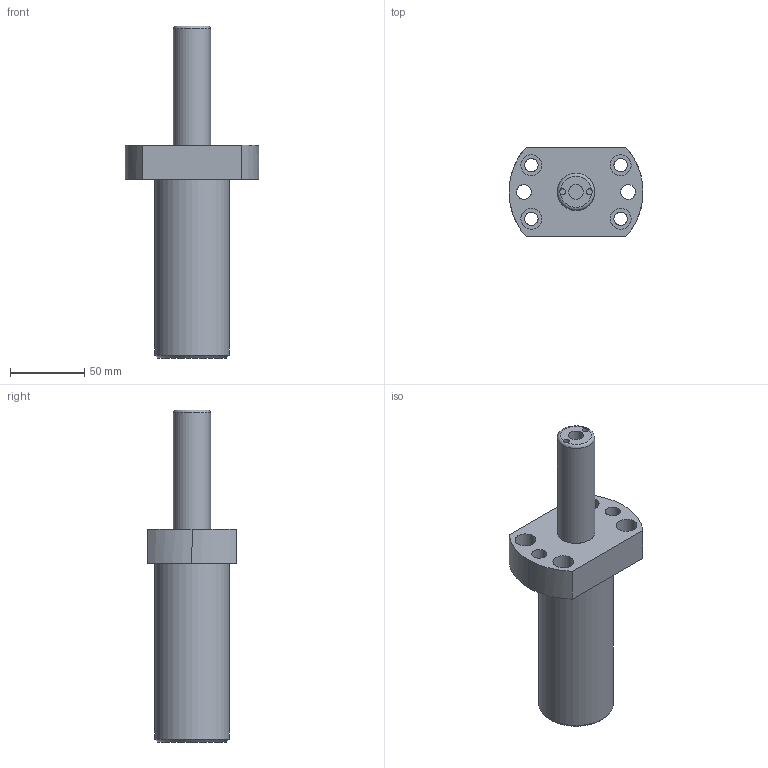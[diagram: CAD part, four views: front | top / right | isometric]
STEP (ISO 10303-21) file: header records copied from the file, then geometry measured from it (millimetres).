
FILE_DESCRIPTION(('FreeCAD Model'),'2;1');
FILE_NAME('Open CASCADE Shape Model','2024-11-13T10:25:55',('Author'),( ''),'Open CASCADE STEP processor 7.6','FreeCAD','Unknown');
FILE_SCHEMA(('AUTOMOTIVE_DESIGN { 1 0 10303 214 1 1 1 1 }'));
Length unit declared in the file: millimetre
Products named in the file (6): Unnamed; Part004; Cut002; Chamfer001; Part006; Cut003
Assembly tree (5 placements, depth 3):
  Unnamed
    Part004
      Cut002
      Chamfer001
    Part006
      Cut003
Bounding box: 90 x 60 x 223 mm (x, y, z)
Volume: 373586.6 mm3; surface area: 50613.2 mm2
Topology: 3 solids, 3 shells, 47 faces, 103 edges, 69 vertices
Faces by surface type: cylinder 28, plane 17, cone 1, torus 1
Full cylindrical faces by diameter (mm): 4 x2, 10 x1, 25 x1, 50 x1
Entity records: 2225 total; most frequent: CARTESIAN_POINT 1094, ORIENTED_EDGE 206, DIRECTION 191, EDGE_CURVE 103, AXIS2_PLACEMENT_3D 78, VERTEX_POINT 69, FACE_BOUND 66, EDGE_LOOP 66
